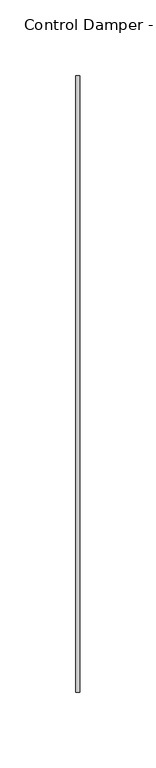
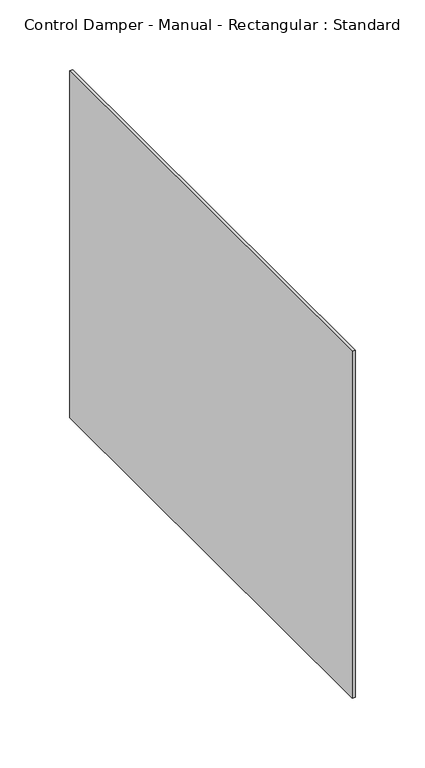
"""IFC4 building model written with IfcOpenShell, lengths in millimetres: damper geometry, Control Damper - Manual - Rectangular : Standard."""

from ifc_helpers import new_model, si_unit, frame, origin, place, context, project, spatial, polyline, outline, extrude, source, transform, mapped, element, save


def control_damper_manual_rectangular_standard_caabb7c0(model_context):
    return source(origin(), model_context, "Body", "SweptSolid", [
        extrude(outline(polyline([(1.2898438, 203.2), (1.2898438, -203.2), (-1.2898438, -203.2), (-1.2898438, 203.2), (1.2898438, 203.2)])), frame((0.0, 0.0, -152.4), z_axis=(0.0, 0.0, 1.0), x_axis=(1.0, 0.0, 0.0)), (0.0, 0.0, 1.0), 304.8),
    ])


if __name__ == "__main__":
    model = new_model("IFC4")
    model_context = context("Model", 3, world=origin())
    ifc_project = project(units=[si_unit("LENGTHUNIT", "METRE", prefix="MILLI")], contexts=[model_context])
    site = spatial("IfcSite", under=ifc_project)
    building = spatial("IfcBuilding", under=site)
    placement = place(None, origin())
    control_damper_manual_rectangular_standard_shape = control_damper_manual_rectangular_standard_caabb7c0(model_context)
    element("IfcDamper", 1, ObjectType="Control Damper - Manual - Rectangular : Standard", at=placement, inside=building, context=model_context, shape_type="MappedRepresentation", body=[
        mapped(control_damper_manual_rectangular_standard_shape, transform((0.0, 0.0, 0.0), x_axis=(1.0, 0.0, 0.0), y_axis=(0.0, 1.0, 0.0), z_axis=(0.0, 0.0, 1.0))),
    ])
    save(model, "model.ifc")
